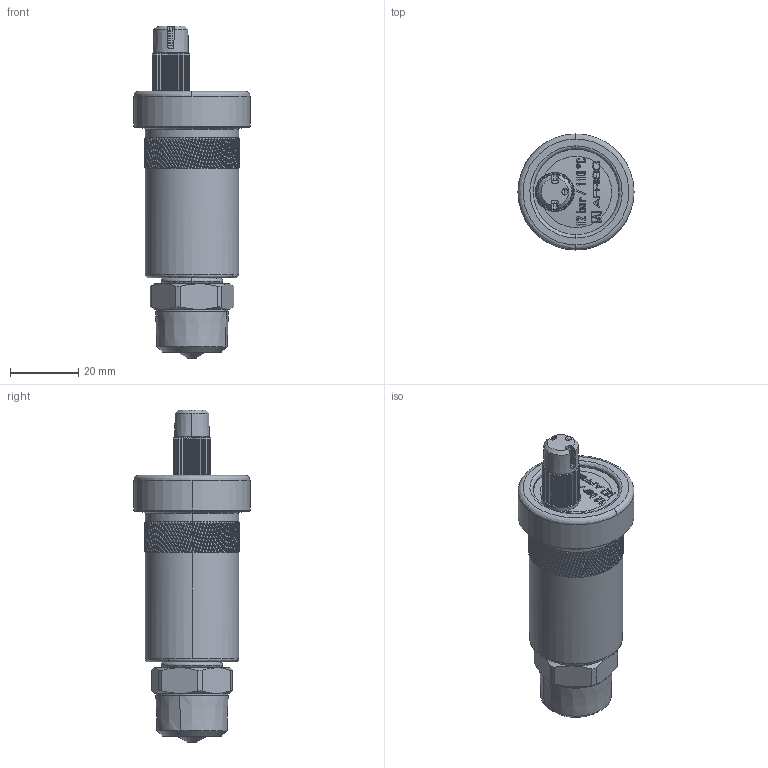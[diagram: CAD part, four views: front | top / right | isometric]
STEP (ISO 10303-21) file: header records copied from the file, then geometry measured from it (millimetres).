
FILE_DESCRIPTION (( 'STEP AP214' ), '1' );
FILE_NAME ('7773510.STEP', '2022-04-20T09:34:57', ( '' ), ( '' ), 'SwSTEP 2.0', 'SolidWorks 2021', '' );
FILE_SCHEMA (( 'AUTOMOTIVE_DESIGN' ));
Length unit declared in the file: millimetre
Products named in the file (11): 05 00 280034_Schraubkappe SE Aquastop; 801 014 1780_O-Ring  _X_F814x1.78 mm EPDM; _X_DCberwurfmutter M32x1,5_05 00 210014; 7773510; Geh_X_E4use Schnellentl_X_FCfter_05 00 210013; 760 000 0169_Quellscheibe _X_F87x_X_F82,5x0,5; Schnellentl_X_FCfter MS G3_8 Aquastop_05 00 21 13; 05 00 250325_St_X_F6_X_DFel MV R1_2 L=22; 05 00 25 40_MV G3_8ixR1_2ax20 _RO_; 05 00 280011_Deckel Schnellentl_X_FCfter; 05 00 250320_Ventilgeh_X_E4use MV G3_8ixR1_2a SW22x20_ Ms
Assembly tree (18 placements, depth 3):
  7773510
    Schnellentl_X_FCfter MS G3_8 Aquastop_05 00 21 13
      _X_DCberwurfmutter M32x1,5_05 00 210014
      801 014 1780_O-Ring  _X_F814x1.78 mm EPDM
      760 000 0169_Quellscheibe _X_F87x_X_F82,5x0,5  x9
      Geh_X_E4use Schnellentl_X_FCfter_05 00 210013
      05 00 280011_Deckel Schnellentl_X_FCfter
      05 00 280034_Schraubkappe SE Aquastop
    05 00 25 40_MV G3_8ixR1_2ax20 _RO_
      05 00 250325_St_X_F6_X_DFel MV R1_2 L=22
    05 00 250320_Ventilgeh_X_E4use MV G3_8ixR1_2a SW22x20_ Ms
Bounding box: 34 x 34 x 97.24 mm (x, y, z)
Volume: 14231.6 mm3; surface area: 22315.3 mm2
Topology: 14 solids, 16 shells, 1887 faces, 4997 edges, 3282 vertices
Faces by surface type: cylinder 667, plane 632, bspline 296, cone 280, torus 12
Entity records: 79877 total; most frequent: CARTESIAN_POINT 23204, ORIENTED_EDGE 8729, DIRECTION 6649, EDGE_CURVE 4370, VERTEX_POINT 2866, AXIS2_PLACEMENT_3D 2500, EDGE_LOOP 1831, UNCERTAINTY_MEASURE_WITH_UNIT 1688
